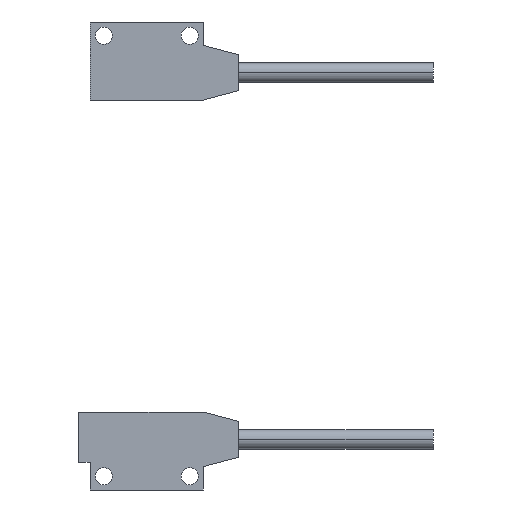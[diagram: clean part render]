
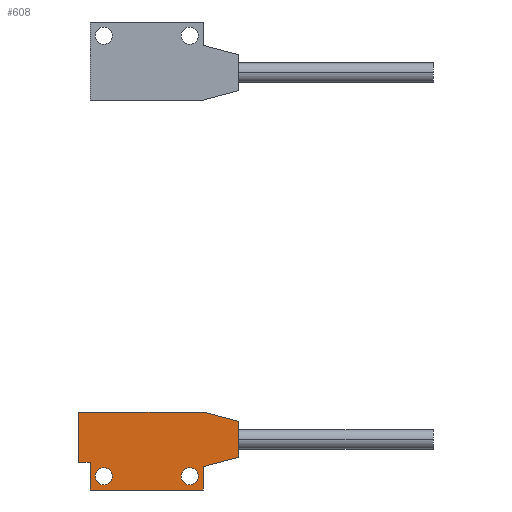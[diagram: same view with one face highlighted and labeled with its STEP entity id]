
A CAD part, left-side view. The second image highlights one B-rep face of the part: STEP entity #608.
In plain terms, the highlighted planar face has unit normal (-1, 0, 0) as drawn and (0, 0, -1) by its records, which use the part's own axes.
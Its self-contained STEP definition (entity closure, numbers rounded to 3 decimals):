
#1 = CARTESIAN_POINT ( 'NONE',  ( 8.25, 4., -2.25 ) ) ;
#3 = DIRECTION ( 'NONE',  ( -1., 0., 0. ) ) ;
#4 = DIRECTION ( 'NONE',  ( 0., 0., -1. ) ) ;
#5 = AXIS2_PLACEMENT_3D ( 'NONE', #1, #4, #3 ) ;
#6 = CIRCLE ( 'NONE', #5, 1.1 ) ;
#16 = CARTESIAN_POINT ( 'NONE',  ( 6.45, 7.25, -2.25 ) ) ;
#21 = LINE ( 'NONE', #29, #28 ) ;
#22 = CARTESIAN_POINT ( 'NONE',  ( 7., -8.75, -2.25 ) ) ;
#27 = DIRECTION ( 'NONE',  ( 1., 0., 0. ) ) ;
#28 = VECTOR ( 'NONE', #27, 1000. ) ;
#29 = CARTESIAN_POINT ( 'NONE',  ( 10., -8.75, -2.25 ) ) ;
#32 = CARTESIAN_POINT ( 'NONE',  ( 10., 5.75, -2.25 ) ) ;
#33 = CARTESIAN_POINT ( 'NONE',  ( 10., -8.75, -2.25 ) ) ;
#34 = DIRECTION ( 'NONE',  ( 0., 1., 0. ) ) ;
#35 = VECTOR ( 'NONE', #34, 1000. ) ;
#36 = CARTESIAN_POINT ( 'NONE',  ( 10., 7.25, -2.25 ) ) ;
#59 = CARTESIAN_POINT ( 'NONE',  ( 10., 7.25, -2.25 ) ) ;
#60 = LINE ( 'NONE', #59, #87 ) ;
#64 = LINE ( 'NONE', #36, #35 ) ;
#75 = CARTESIAN_POINT ( 'NONE',  ( 9.35, 4., -2.25 ) ) ;
#86 = DIRECTION ( 'NONE',  ( -1., 0., 0. ) ) ;
#87 = VECTOR ( 'NONE', #86, 1000. ) ;
#88 = CARTESIAN_POINT ( 'NONE',  ( 7.15, 4., -2.25 ) ) ;
#94 = DIRECTION ( 'NONE',  ( 0., -1., 0. ) ) ;
#95 = VECTOR ( 'NONE', #94, 1000. ) ;
#96 = CARTESIAN_POINT ( 'NONE',  ( 0., 7.25, -2.25 ) ) ;
#97 = LINE ( 'NONE', #96, #95 ) ;
#112 = CIRCLE ( 'NONE', #133, 1.1 ) ;
#116 = CARTESIAN_POINT ( 'NONE',  ( 0., -8.75, -2.25 ) ) ;
#117 = CARTESIAN_POINT ( 'NONE',  ( 0., 7.25, -2.25 ) ) ;
#130 = DIRECTION ( 'NONE',  ( -1., 0., 0. ) ) ;
#131 = DIRECTION ( 'NONE',  ( 0., 0., -1. ) ) ;
#132 = CARTESIAN_POINT ( 'NONE',  ( 8.25, -7., -2.25 ) ) ;
#133 = AXIS2_PLACEMENT_3D ( 'NONE', #132, #131, #130 ) ;
#155 = CARTESIAN_POINT ( 'NONE',  ( 8.25, -7., -2.25 ) ) ;
#158 = CARTESIAN_POINT ( 'NONE',  ( 7.15, -7., -2.25 ) ) ;
#159 = CARTESIAN_POINT ( 'NONE',  ( 9.35, -7., -2.25 ) ) ;
#160 = DIRECTION ( 'NONE',  ( -1., 0., 0. ) ) ;
#161 = DIRECTION ( 'NONE',  ( 0., 0., -1. ) ) ;
#162 = AXIS2_PLACEMENT_3D ( 'NONE', #155, #161, #160 ) ;
#177 = CIRCLE ( 'NONE', #162, 1.1 ) ;
#438 = EDGE_CURVE ( 'NONE', #439, #440, #6, .T. ) ;
#439 = VERTEX_POINT ( 'NONE', #75 ) ;
#440 = VERTEX_POINT ( 'NONE', #88 ) ;
#445 = VERTEX_POINT ( 'NONE', #16 ) ;
#447 = EDGE_CURVE ( 'NONE', #445, #513, #60, .T. ) ;
#456 = VERTEX_POINT ( 'NONE', #22 ) ;
#458 = EDGE_CURVE ( 'NONE', #456, #468, #21, .T. ) ;
#467 = EDGE_CURVE ( 'NONE', #468, #469, #64, .T. ) ;
#468 = VERTEX_POINT ( 'NONE', #33 ) ;
#469 = VERTEX_POINT ( 'NONE', #32 ) ;
#475 = EDGE_LOOP ( 'NONE', ( #476, #477 ) ) ;
#476 = ORIENTED_EDGE ( 'NONE', *, *, #533, .F. ) ;
#477 = ORIENTED_EDGE ( 'NONE', *, *, #498, .F. ) ;
#498 = EDGE_CURVE ( 'NONE', #535, #534, #112, .T. ) ;
#499 = EDGE_LOOP ( 'NONE', ( #500, #621 ) ) ;
#500 = ORIENTED_EDGE ( 'NONE', *, *, #438, .F. ) ;
#501 = EDGE_LOOP ( 'NONE', ( #623, #626, #628, #629, #630, #633, #702, #704, #705 ) ) ;
#512 = EDGE_CURVE ( 'NONE', #513, #514, #97, .T. ) ;
#513 = VERTEX_POINT ( 'NONE', #117 ) ;
#514 = VERTEX_POINT ( 'NONE', #116 ) ;
#533 = EDGE_CURVE ( 'NONE', #534, #535, #177, .T. ) ;
#534 = VERTEX_POINT ( 'NONE', #159 ) ;
#535 = VERTEX_POINT ( 'NONE', #158 ) ;
#608 = ADVANCED_FACE ( 'NONE', ( #1460, #1478, #1477 ), #1476, .T. ) ;
#621 = ORIENTED_EDGE ( 'NONE', *, *, #622, .F. ) ;
#622 = EDGE_CURVE ( 'NONE', #440, #439, #1144, .T. ) ;
#623 = ORIENTED_EDGE ( 'NONE', *, *, #624, .F. ) ;
#624 = EDGE_CURVE ( 'NONE', #625, #445, #1139, .T. ) ;
#625 = VERTEX_POINT ( 'NONE', #1135 ) ;
#626 = ORIENTED_EDGE ( 'NONE', *, *, #627, .F. ) ;
#627 = EDGE_CURVE ( 'NONE', #469, #625, #1134, .T. ) ;
#628 = ORIENTED_EDGE ( 'NONE', *, *, #467, .F. ) ;
#629 = ORIENTED_EDGE ( 'NONE', *, *, #458, .F. ) ;
#630 = ORIENTED_EDGE ( 'NONE', *, *, #631, .F. ) ;
#631 = EDGE_CURVE ( 'NONE', #632, #456, #1130, .T. ) ;
#632 = VERTEX_POINT ( 'NONE', #1126 ) ;
#633 = ORIENTED_EDGE ( 'NONE', *, *, #700, .F. ) ;
#700 = EDGE_CURVE ( 'NONE', #701, #632, #1229, .T. ) ;
#701 = VERTEX_POINT ( 'NONE', #1225 ) ;
#702 = ORIENTED_EDGE ( 'NONE', *, *, #703, .F. ) ;
#703 = EDGE_CURVE ( 'NONE', #514, #701, #1224, .T. ) ;
#704 = ORIENTED_EDGE ( 'NONE', *, *, #512, .F. ) ;
#705 = ORIENTED_EDGE ( 'NONE', *, *, #447, .F. ) ;
#1126 = CARTESIAN_POINT ( 'NONE',  ( 5.794, -13.25, -2.25 ) ) ;
#1127 = DIRECTION ( 'NONE',  ( 0.259, 0.966, 0. ) ) ;
#1128 = VECTOR ( 'NONE', #1127, 1000. ) ;
#1129 = CARTESIAN_POINT ( 'NONE',  ( 5.794, -13.25, -2.25 ) ) ;
#1130 = LINE ( 'NONE', #1129, #1128 ) ;
#1131 = DIRECTION ( 'NONE',  ( -1., 0., 0. ) ) ;
#1132 = VECTOR ( 'NONE', #1131, 1000. ) ;
#1133 = CARTESIAN_POINT ( 'NONE',  ( 10., 5.75, -2.25 ) ) ;
#1134 = LINE ( 'NONE', #1133, #1132 ) ;
#1135 = CARTESIAN_POINT ( 'NONE',  ( 6.45, 5.75, -2.25 ) ) ;
#1136 = DIRECTION ( 'NONE',  ( 0., 1., 0. ) ) ;
#1137 = VECTOR ( 'NONE', #1136, 1000. ) ;
#1138 = CARTESIAN_POINT ( 'NONE',  ( 6.45, -8.75, -2.25 ) ) ;
#1139 = LINE ( 'NONE', #1138, #1137 ) ;
#1140 = DIRECTION ( 'NONE',  ( -1., 0., 0. ) ) ;
#1141 = DIRECTION ( 'NONE',  ( 0., 0., -1. ) ) ;
#1142 = CARTESIAN_POINT ( 'NONE',  ( 8.25, 4., -2.25 ) ) ;
#1143 = AXIS2_PLACEMENT_3D ( 'NONE', #1142, #1141, #1140 ) ;
#1144 = CIRCLE ( 'NONE', #1143, 1.1 ) ;
#1221 = DIRECTION ( 'NONE',  ( 0.259, -0.966, 0. ) ) ;
#1222 = VECTOR ( 'NONE', #1221, 1000. ) ;
#1223 = CARTESIAN_POINT ( 'NONE',  ( 0., -8.75, -2.25 ) ) ;
#1224 = LINE ( 'NONE', #1223, #1222 ) ;
#1225 = CARTESIAN_POINT ( 'NONE',  ( 1.206, -13.25, -2.25 ) ) ;
#1226 = DIRECTION ( 'NONE',  ( 1., 0., 0. ) ) ;
#1227 = VECTOR ( 'NONE', #1226, 1000. ) ;
#1228 = CARTESIAN_POINT ( 'NONE',  ( 1.206, -13.25, -2.25 ) ) ;
#1229 = LINE ( 'NONE', #1228, #1227 ) ;
#1460 = FACE_BOUND ( 'NONE', #475, .T. ) ;
#1474 = CARTESIAN_POINT ( 'NONE',  ( 10., -8.75, -2.25 ) ) ;
#1475 = AXIS2_PLACEMENT_3D ( 'NONE', #1474, #1500, #1499 ) ;
#1476 = PLANE ( 'NONE',  #1475 ) ;
#1477 = FACE_OUTER_BOUND ( 'NONE', #501, .T. ) ;
#1478 = FACE_BOUND ( 'NONE', #499, .T. ) ;
#1499 = DIRECTION ( 'NONE',  ( -1., 0., 0. ) ) ;
#1500 = DIRECTION ( 'NONE',  ( 0., 0., -1. ) ) ;
